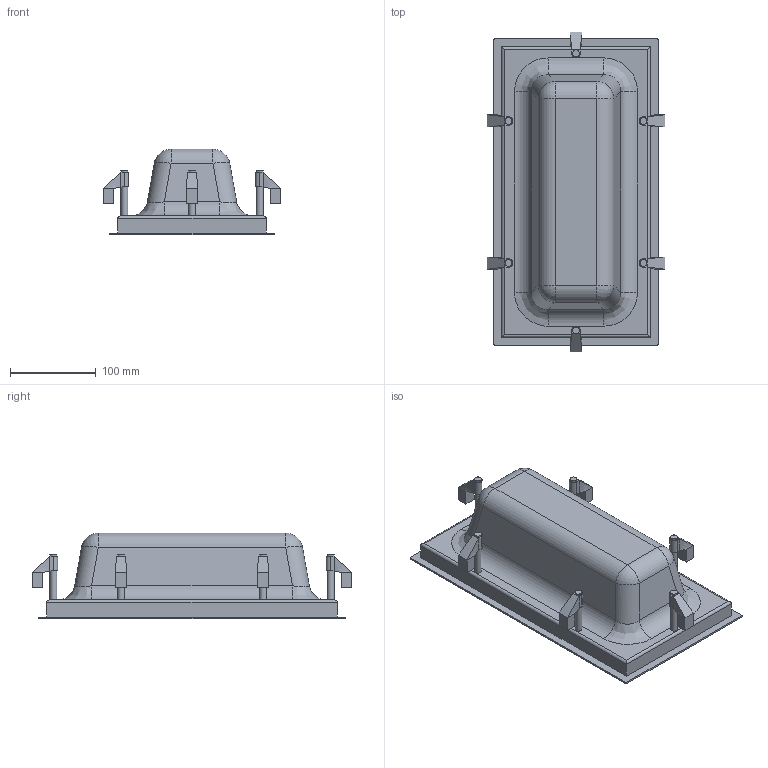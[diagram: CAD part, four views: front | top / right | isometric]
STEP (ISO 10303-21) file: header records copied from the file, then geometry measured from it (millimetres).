
FILE_DESCRIPTION(/* description */ (''),/* implementation_level */ '2;1');
FILE_NAME(/* name */ 'DE-300.stp',/* time_stamp */ '2024-09-24T15:04:11+02:00',/* author */ ('d.streicher'),/* organization */ (''),/* preprocessor_version */ 'ST-DEVELOPER v20',/* originating_system */ 'Autodesk Inventor 2025',/* authorisation */ '');
FILE_SCHEMA (('AUTOMOTIVE_DESIGN { 1 0 10303 214 3 1 1 }'));
Length unit declared in the file: millimetre
Products named in the file (1): DE-300
Bounding box: 208 x 374 x 100 mm (x, y, z)
Volume: 3352446.3 mm3; surface area: 226059 mm2
Topology: 1 solids, 1 shells, 156 faces, 377 edges, 270 vertices
Faces by surface type: plane 98, cylinder 38, bspline 16, sphere 4
Full cylindrical faces by diameter (mm): 8 x12
Entity records: 4856 total; most frequent: CARTESIAN_POINT 1115, DIRECTION 716, ORIENTED_EDGE 688, EDGE_CURVE 344, LINE 260, VECTOR 260, AXIS2_PLACEMENT_3D 228, VERTEX_POINT 200
